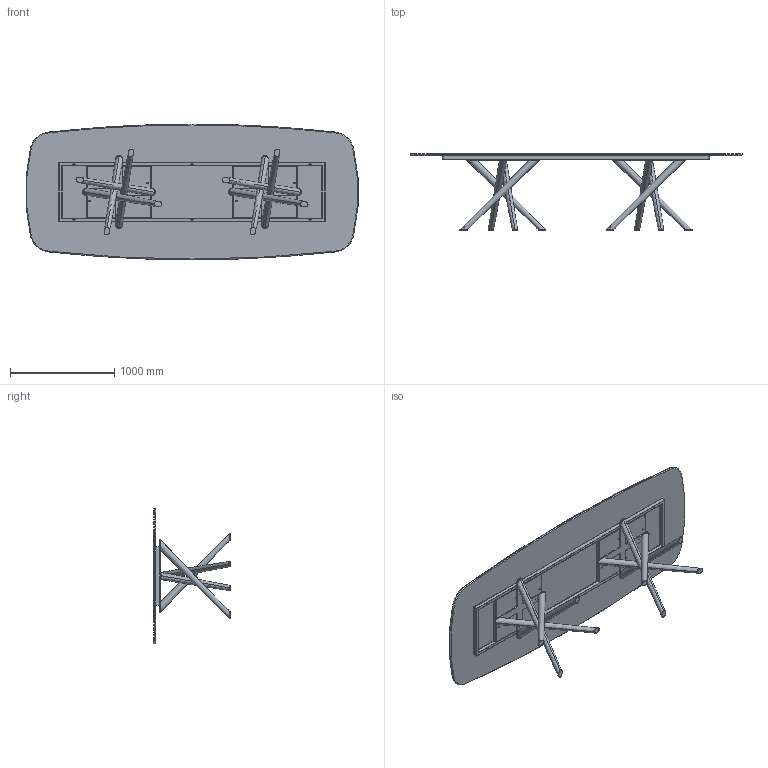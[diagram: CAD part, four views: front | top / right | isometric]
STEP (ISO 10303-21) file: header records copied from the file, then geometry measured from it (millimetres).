
FILE_DESCRIPTION (( 'STEP AP203' ), '1' );
FILE_NAME ('BA47C.STEP', '2024-08-08T06:25:10', ( '' ), ( '' ), 'SwSTEP 2.0', 'SolidWorks 2022', '' );
FILE_SCHEMA (( 'CONFIG_CONTROL_DESIGN' ));
Length unit declared in the file: millimetre
Products named in the file (9): TTAV03_02-06-VASSOIO IRRIGIDIMENTO TELAIO UNIVERSALE RETTANGOLARE; BAB000000-00-BALY BASE GREZZA; Parte5^BAB000000-00-BALY BASE GREZZA; BA47C; BAB000000_01-00-Croce Superiore baly; BAB000000_02-00-basamento pali conificati; TTAV03_01-06-RING TUBO TELAIO UNIVERSALE X TAVOLI 300-340cm; TTAV03-06-TELAIO UNIVERSALE X TAVOLI 300-340cm; K4XCMXX-00-Piani Sagomati in ceramica_3190 x 1300
Assembly tree (10 placements, depth 3):
  BA47C
    K4XCMXX-00-Piani Sagomati in ceramica_3190 x 1300
    TTAV03-06-TELAIO UNIVERSALE X TAVOLI 300-340cm
      TTAV03_01-06-RING TUBO TELAIO UNIVERSALE X TAVOLI 300-340cm
      TTAV03_02-06-VASSOIO IRRIGIDIMENTO TELAIO UNIVERSALE RETTANGOLARE  x2
    BAB000000-00-BALY BASE GREZZA  x2
      BAB000000_01-00-Croce Superiore baly
      BAB000000_02-00-basamento pali conificati
      Parte5^BAB000000-00-BALY BASE GREZZA
Bounding box: 3179.54 x 731 x 1300 mm (x, y, z)
Volume: 70794516.7 mm3; surface area: 21907359.4 mm2
Topology: 23 solids, 23 shells, 581 faces, 1423 edges, 882 vertices
Faces by surface type: plane 272, cylinder 212, cone 73, bspline 16, sphere 8
Entity records: 13263 total; most frequent: CARTESIAN_POINT 3543, DIRECTION 1840, ORIENTED_EDGE 1780, EDGE_CURVE 890, AXIS2_PLACEMENT_3D 653, VERTEX_POINT 556, LINE 534, VECTOR 534
